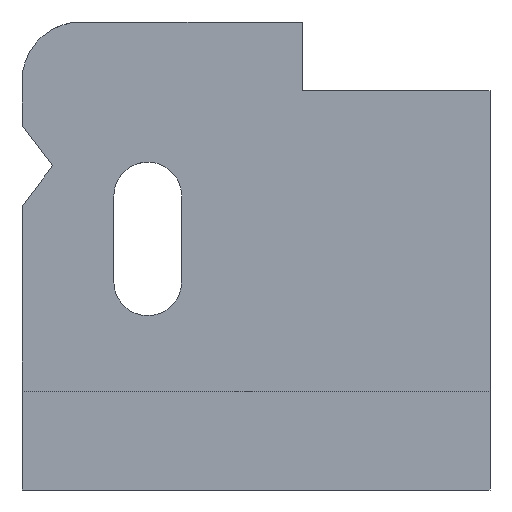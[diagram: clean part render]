
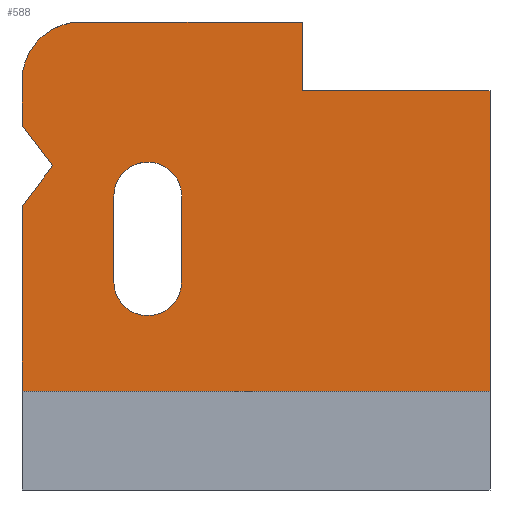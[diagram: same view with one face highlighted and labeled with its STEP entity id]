
A CAD part, front view. The second image highlights one B-rep face of the part: STEP entity #588.
In plain terms, the highlighted planar face has unit normal (0, -1, 0).
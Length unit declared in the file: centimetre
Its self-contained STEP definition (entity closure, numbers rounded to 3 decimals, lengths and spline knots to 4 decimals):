
#2 = CARTESIAN_POINT ( 'NONE',  ( 0., 0., 874.0656 ) ) ;
#25 = LINE ( 'NONE', #1201, #282 ) ;
#55 = LINE ( 'NONE', #1489, #654 ) ;
#102 = DIRECTION ( 'NONE',  ( 0., 1., 0. ) ) ;
#109 = CIRCLE ( 'NONE', #920, 72.4464 ) ;
#110 = ORIENTED_EDGE ( 'NONE', *, *, #1074, .F. ) ;
#111 = EDGE_CURVE ( 'NONE', #1299, #180, #606, .T. ) ;
#120 = VECTOR ( 'NONE', #1087, 100. ) ;
#122 = EDGE_CURVE ( 'NONE', #592, #799, #652, .T. ) ;
#136 = DIRECTION ( 'NONE',  ( 0., 0., -1. ) ) ;
#146 = AXIS2_PLACEMENT_3D ( 'NONE', #1162, #561, #1043 ) ;
#155 = LINE ( 'NONE', #621, #384 ) ;
#172 = DIRECTION ( 'NONE',  ( 0., 0., 1. ) ) ;
#180 = VERTEX_POINT ( 'NONE', #746 ) ;
#202 = VECTOR ( 'NONE', #1477, 100. ) ;
#204 = CIRCLE ( 'NONE', #1437, 72.4464 ) ;
#224 = VERTEX_POINT ( 'NONE', #267 ) ;
#251 = DIRECTION ( 'NONE',  ( 1., 0., 0. ) ) ;
#253 = CARTESIAN_POINT ( 'NONE',  ( 0., 0., 1000. ) ) ;
#259 = CARTESIAN_POINT ( 'NONE',  ( 268.5929, 0., 628.1032 ) ) ;
#263 = DIRECTION ( 'NONE',  ( 1., 0., 0. ) ) ;
#267 = CARTESIAN_POINT ( 'NONE',  ( 598.4352, 0., 1000. ) ) ;
#274 = DIRECTION ( 'NONE',  ( 0., 0., 1. ) ) ;
#282 = VECTOR ( 'NONE', #251, 100. ) ;
#303 = VECTOR ( 'NONE', #1133, 100. ) ;
#305 = CARTESIAN_POINT ( 'NONE',  ( 341.0393, 0., 628.1032 ) ) ;
#336 = CARTESIAN_POINT ( 'NONE',  ( 1000., 0., 852.9231 ) ) ;
#339 = VERTEX_POINT ( 'NONE', #1379 ) ;
#358 = VERTEX_POINT ( 'NONE', #305 ) ;
#363 = LINE ( 'NONE', #680, #394 ) ;
#384 = VECTOR ( 'NONE', #263, 100. ) ;
#391 = DIRECTION ( 'NONE',  ( 0., -1., 0. ) ) ;
#394 = VECTOR ( 'NONE', #1321, 100. ) ;
#400 = LINE ( 'NONE', #992, #1104 ) ;
#411 = EDGE_CURVE ( 'NONE', #1447, #358, #55, .T. ) ;
#450 = FACE_BOUND ( 'NONE', #1284, .T. ) ;
#465 = VECTOR ( 'NONE', #1210, 100. ) ;
#489 = DIRECTION ( 'NONE',  ( 0., -1., 0. ) ) ;
#492 = CARTESIAN_POINT ( 'NONE',  ( 268.5929, 0., 372.5599 ) ) ;
#510 = CARTESIAN_POINT ( 'NONE',  ( 0., 0., 605.7488 ) ) ;
#514 = LINE ( 'NONE', #612, #202 ) ;
#535 = ORIENTED_EDGE ( 'NONE', *, *, #1480, .T. ) ;
#547 = ORIENTED_EDGE ( 'NONE', *, *, #1461, .F. ) ;
#550 = ORIENTED_EDGE ( 'NONE', *, *, #565, .T. ) ;
#561 = DIRECTION ( 'NONE',  ( 0., -1., 0. ) ) ;
#565 = EDGE_CURVE ( 'NONE', #799, #180, #363, .T. ) ;
#571 = DIRECTION ( 'NONE',  ( 0., 0., 1. ) ) ;
#580 = EDGE_CURVE ( 'NONE', #1054, #1553, #804, .T. ) ;
#588 = ADVANCED_FACE ( 'NONE', ( #450, #922 ), #1413, .F. ) ;
#592 = VERTEX_POINT ( 'NONE', #1053 ) ;
#597 = VERTEX_POINT ( 'NONE', #1538 ) ;
#602 = CARTESIAN_POINT ( 'NONE',  ( 196.1465, 0., 445.0063 ) ) ;
#606 = LINE ( 'NONE', #969, #465 ) ;
#607 = DIRECTION ( 'NONE',  ( 0., 0., 1. ) ) ;
#612 = CARTESIAN_POINT ( 'NONE',  ( 0., 0., 605.7488 ) ) ;
#620 = EDGE_CURVE ( 'NONE', #224, #339, #1204, .T. ) ;
#621 = CARTESIAN_POINT ( 'NONE',  ( 598.4352, 0., 852.9231 ) ) ;
#652 = CIRCLE ( 'NONE', #1545, 125.9344 ) ;
#654 = VECTOR ( 'NONE', #172, 100. ) ;
#675 = ORIENTED_EDGE ( 'NONE', *, *, #829, .T. ) ;
#680 = CARTESIAN_POINT ( 'NONE',  ( 0., 0., 1000. ) ) ;
#686 = CARTESIAN_POINT ( 'NONE',  ( 196.1465, 0., 628.1032 ) ) ;
#707 = VERTEX_POINT ( 'NONE', #772 ) ;
#710 = ORIENTED_EDGE ( 'NONE', *, *, #111, .F. ) ;
#718 = DIRECTION ( 'NONE',  ( 0., -1., 0. ) ) ;
#746 = CARTESIAN_POINT ( 'NONE',  ( 0., 0., 779.771 ) ) ;
#767 = CARTESIAN_POINT ( 'NONE',  ( 65.4741, 0., 692.7599 ) ) ;
#772 = CARTESIAN_POINT ( 'NONE',  ( 0., 0., 211.3373 ) ) ;
#784 = ORIENTED_EDGE ( 'NONE', *, *, #1220, .F. ) ;
#789 = ORIENTED_EDGE ( 'NONE', *, *, #122, .T. ) ;
#799 = VERTEX_POINT ( 'NONE', #2 ) ;
#801 = EDGE_LOOP ( 'NONE', ( #675, #535, #1276, #110, #1404, #1425, #789, #550, #710, #901 ) ) ;
#804 = CIRCLE ( 'NONE', #146, 72.4464 ) ;
#805 = CARTESIAN_POINT ( 'NONE',  ( 0., 0., 1000. ) ) ;
#819 = VERTEX_POINT ( 'NONE', #336 ) ;
#820 = CARTESIAN_POINT ( 'NONE',  ( 341.0393, 0., 445.0063 ) ) ;
#829 = EDGE_CURVE ( 'NONE', #951, #707, #1327, .T. ) ;
#836 = VERTEX_POINT ( 'NONE', #686 ) ;
#886 = ORIENTED_EDGE ( 'NONE', *, *, #411, .F. ) ;
#901 = ORIENTED_EDGE ( 'NONE', *, *, #1040, .F. ) ;
#920 = AXIS2_PLACEMENT_3D ( 'NONE', #1092, #489, #1219 ) ;
#922 = FACE_OUTER_BOUND ( 'NONE', #801, .T. ) ;
#949 = VECTOR ( 'NONE', #1316, 100. ) ;
#951 = VERTEX_POINT ( 'NONE', #510 ) ;
#955 = CARTESIAN_POINT ( 'NONE',  ( 598.4352, 0., 852.9231 ) ) ;
#969 = CARTESIAN_POINT ( 'NONE',  ( 65.4741, 0., 692.7599 ) ) ;
#992 = CARTESIAN_POINT ( 'NONE',  ( 1000., 0., 1000. ) ) ;
#1003 = ORIENTED_EDGE ( 'NONE', *, *, #580, .F. ) ;
#1006 = AXIS2_PLACEMENT_3D ( 'NONE', #805, #102, #571 ) ;
#1040 = EDGE_CURVE ( 'NONE', #951, #1299, #514, .T. ) ;
#1043 = DIRECTION ( 'NONE',  ( 0., 0., 1. ) ) ;
#1049 = EDGE_CURVE ( 'NONE', #819, #597, #400, .T. ) ;
#1053 = CARTESIAN_POINT ( 'NONE',  ( 125.9344, 0., 1000. ) ) ;
#1054 = VERTEX_POINT ( 'NONE', #602 ) ;
#1074 = EDGE_CURVE ( 'NONE', #339, #819, #155, .T. ) ;
#1087 = DIRECTION ( 'NONE',  ( 0., 0., -1. ) ) ;
#1092 = CARTESIAN_POINT ( 'NONE',  ( 268.5929, 0., 445.0063 ) ) ;
#1104 = VECTOR ( 'NONE', #136, 100. ) ;
#1106 = CARTESIAN_POINT ( 'NONE',  ( 125.9344, 0., 874.0656 ) ) ;
#1133 = DIRECTION ( 'NONE',  ( 0., 0., -1. ) ) ;
#1142 = CARTESIAN_POINT ( 'NONE',  ( 196.1465, 0., 445.0063 ) ) ;
#1162 = CARTESIAN_POINT ( 'NONE',  ( 268.5929, 0., 445.0063 ) ) ;
#1201 = CARTESIAN_POINT ( 'NONE',  ( 0., 0., 211.3373 ) ) ;
#1204 = LINE ( 'NONE', #955, #120 ) ;
#1210 = DIRECTION ( 'NONE',  ( -0.601, 0., 0.799 ) ) ;
#1219 = DIRECTION ( 'NONE',  ( 0., 0., 1. ) ) ;
#1220 = EDGE_CURVE ( 'NONE', #836, #1054, #1270, .T. ) ;
#1228 = VECTOR ( 'NONE', #1548, 100. ) ;
#1270 = LINE ( 'NONE', #1142, #303 ) ;
#1276 = ORIENTED_EDGE ( 'NONE', *, *, #1049, .F. ) ;
#1284 = EDGE_LOOP ( 'NONE', ( #886, #1398, #1003, #784, #547 ) ) ;
#1299 = VERTEX_POINT ( 'NONE', #767 ) ;
#1316 = DIRECTION ( 'NONE',  ( 1., 0., 0. ) ) ;
#1321 = DIRECTION ( 'NONE',  ( 0., 0., -1. ) ) ;
#1327 = LINE ( 'NONE', #253, #1228 ) ;
#1379 = CARTESIAN_POINT ( 'NONE',  ( 598.4352, 0., 852.9231 ) ) ;
#1398 = ORIENTED_EDGE ( 'NONE', *, *, #1474, .F. ) ;
#1404 = ORIENTED_EDGE ( 'NONE', *, *, #620, .F. ) ;
#1411 = EDGE_CURVE ( 'NONE', #592, #224, #1543, .T. ) ;
#1413 = PLANE ( 'NONE',  #1006 ) ;
#1425 = ORIENTED_EDGE ( 'NONE', *, *, #1411, .F. ) ;
#1437 = AXIS2_PLACEMENT_3D ( 'NONE', #259, #718, #607 ) ;
#1447 = VERTEX_POINT ( 'NONE', #820 ) ;
#1461 = EDGE_CURVE ( 'NONE', #358, #836, #204, .T. ) ;
#1474 = EDGE_CURVE ( 'NONE', #1553, #1447, #109, .T. ) ;
#1477 = DIRECTION ( 'NONE',  ( 0.601, 0., 0.799 ) ) ;
#1480 = EDGE_CURVE ( 'NONE', #707, #597, #25, .T. ) ;
#1489 = CARTESIAN_POINT ( 'NONE',  ( 341.0393, 0., 628.1032 ) ) ;
#1525 = CARTESIAN_POINT ( 'NONE',  ( 0., 0., 1000. ) ) ;
#1538 = CARTESIAN_POINT ( 'NONE',  ( 1000., 0., 211.3373 ) ) ;
#1543 = LINE ( 'NONE', #1525, #949 ) ;
#1545 = AXIS2_PLACEMENT_3D ( 'NONE', #1106, #391, #274 ) ;
#1548 = DIRECTION ( 'NONE',  ( 0., 0., -1. ) ) ;
#1553 = VERTEX_POINT ( 'NONE', #492 ) ;
